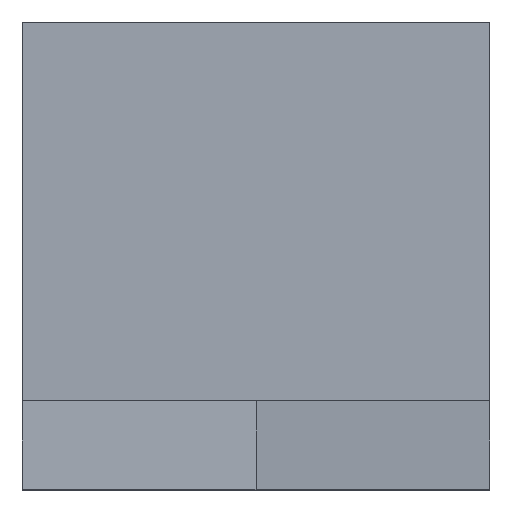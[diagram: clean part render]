
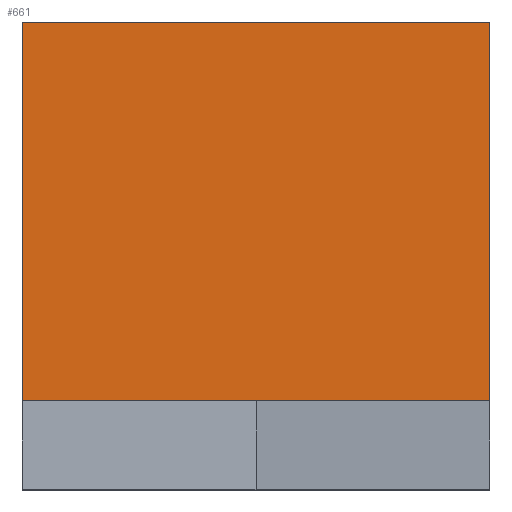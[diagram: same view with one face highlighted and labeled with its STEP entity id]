
A CAD part, top view. The second image highlights one B-rep face of the part: STEP entity #661.
In plain terms, the highlighted planar face has unit normal (0, 0, 1).
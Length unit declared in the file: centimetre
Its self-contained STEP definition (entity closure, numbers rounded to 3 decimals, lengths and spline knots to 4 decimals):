
#88 = VERTEX_POINT ( 'NONE', #254 ) ;
#96 = ORIENTED_EDGE ( 'NONE', *, *, #1215, .F. ) ;
#115 = DIRECTION ( 'NONE',  ( 0., -1., 0. ) ) ;
#116 = ORIENTED_EDGE ( 'NONE', *, *, #559, .T. ) ;
#153 = FACE_OUTER_BOUND ( 'NONE', #1131, .T. ) ;
#164 = AXIS2_PLACEMENT_3D ( 'NONE', #1095, #471, #1308 ) ;
#210 = CARTESIAN_POINT ( 'NONE',  ( 1000., 1000., 1000. ) ) ;
#248 = VERTEX_POINT ( 'NONE', #891 ) ;
#254 = CARTESIAN_POINT ( 'NONE',  ( 0., 189.1663, 1000. ) ) ;
#259 = EDGE_CURVE ( 'NONE', #922, #1354, #1214, .T. ) ;
#445 = LINE ( 'NONE', #1086, #823 ) ;
#452 = DIRECTION ( 'NONE',  ( 0., 1., 0. ) ) ;
#471 = DIRECTION ( 'NONE',  ( 0., 0., 1. ) ) ;
#526 = VECTOR ( 'NONE', #115, 100. ) ;
#559 = EDGE_CURVE ( 'NONE', #248, #922, #445, .T. ) ;
#583 = DIRECTION ( 'NONE',  ( -1., 0., 0. ) ) ;
#586 = VECTOR ( 'NONE', #1355, 100. ) ;
#634 = CARTESIAN_POINT ( 'NONE',  ( 0., 1000., 1000. ) ) ;
#661 = ADVANCED_FACE ( 'NONE', ( #153 ), #673, .T. ) ;
#673 = PLANE ( 'NONE',  #164 ) ;
#760 = VECTOR ( 'NONE', #583, 100. ) ;
#797 = CARTESIAN_POINT ( 'NONE',  ( 0., 189.1663, 1000. ) ) ;
#823 = VECTOR ( 'NONE', #452, 100. ) ;
#891 = CARTESIAN_POINT ( 'NONE',  ( 1000., 189.1663, 1000. ) ) ;
#922 = VERTEX_POINT ( 'NONE', #210 ) ;
#924 = ORIENTED_EDGE ( 'NONE', *, *, #968, .T. ) ;
#968 = EDGE_CURVE ( 'NONE', #1354, #88, #1265, .T. ) ;
#1008 = CARTESIAN_POINT ( 'NONE',  ( 0., 1000., 1000. ) ) ;
#1057 = CARTESIAN_POINT ( 'NONE',  ( 0., 1000., 1000. ) ) ;
#1086 = CARTESIAN_POINT ( 'NONE',  ( 1000., 1000., 1000. ) ) ;
#1095 = CARTESIAN_POINT ( 'NONE',  ( 0., 0., 1000. ) ) ;
#1131 = EDGE_LOOP ( 'NONE', ( #96, #116, #1363, #924 ) ) ;
#1214 = LINE ( 'NONE', #1008, #760 ) ;
#1215 = EDGE_CURVE ( 'NONE', #248, #88, #1225, .T. ) ;
#1225 = LINE ( 'NONE', #797, #586 ) ;
#1265 = LINE ( 'NONE', #1057, #526 ) ;
#1308 = DIRECTION ( 'NONE',  ( 1., 0., 0. ) ) ;
#1354 = VERTEX_POINT ( 'NONE', #634 ) ;
#1355 = DIRECTION ( 'NONE',  ( -1., 0., 0. ) ) ;
#1363 = ORIENTED_EDGE ( 'NONE', *, *, #259, .T. ) ;
